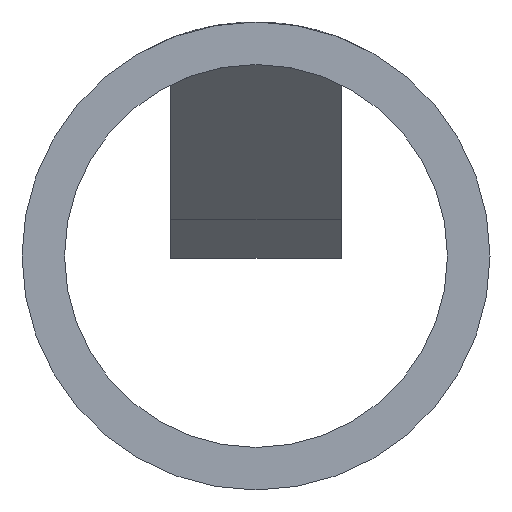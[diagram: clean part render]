
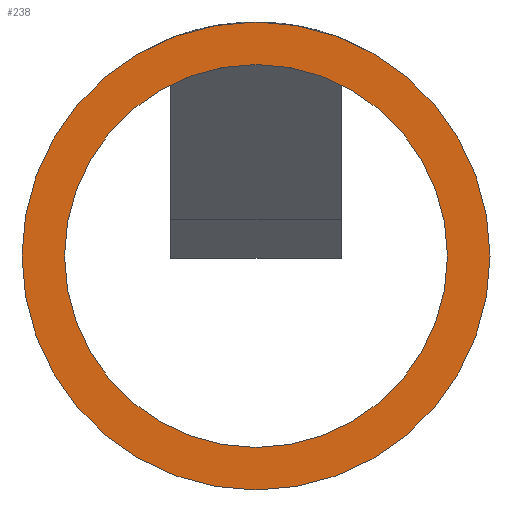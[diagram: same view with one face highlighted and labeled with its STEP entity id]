
A CAD part, front view. The second image highlights one B-rep face of the part: STEP entity #238.
In plain terms, the highlighted planar face has unit normal (0, -1, 0).
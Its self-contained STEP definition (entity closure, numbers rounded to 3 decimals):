
#19 = CIRCLE ( 'NONE', #180, 4.5 ) ;
#31 = FACE_OUTER_BOUND ( 'NONE', #62, .T. ) ;
#37 = FACE_BOUND ( 'NONE', #65, .T. ) ;
#50 = CIRCLE ( 'NONE', #198, 5.5 ) ;
#62 = EDGE_LOOP ( 'NONE', ( #313, #314 ) ) ;
#65 = EDGE_LOOP ( 'NONE', ( #315, #263 ) ) ;
#131 = AXIS2_PLACEMENT_3D ( 'NONE', #466, #463, #455 ) ;
#135 = EDGE_CURVE ( 'NONE', #224, #230, #272, .T. ) ;
#145 = EDGE_CURVE ( 'NONE', #217, #218, #264, .T. ) ;
#159 = EDGE_CURVE ( 'NONE', #218, #217, #19, .T. ) ;
#169 = EDGE_CURVE ( 'NONE', #230, #224, #50, .T. ) ;
#180 = AXIS2_PLACEMENT_3D ( 'NONE', #452, #448, #447 ) ;
#181 = AXIS2_PLACEMENT_3D ( 'NONE', #339, #485, #484 ) ;
#190 = AXIS2_PLACEMENT_3D ( 'NONE', #364, #355, #354 ) ;
#198 = AXIS2_PLACEMENT_3D ( 'NONE', #449, #428, #427 ) ;
#217 = VERTEX_POINT ( 'NONE', #433 ) ;
#218 = VERTEX_POINT ( 'NONE', #410 ) ;
#224 = VERTEX_POINT ( 'NONE', #403 ) ;
#230 = VERTEX_POINT ( 'NONE', #397 ) ;
#238 = ADVANCED_FACE ( 'NONE', ( #31, #37 ), #356, .T. ) ;
#263 = ORIENTED_EDGE ( 'NONE', *, *, #145, .F. ) ;
#264 = CIRCLE ( 'NONE', #181, 4.5 ) ;
#272 = CIRCLE ( 'NONE', #131, 5.5 ) ;
#313 = ORIENTED_EDGE ( 'NONE', *, *, #135, .T. ) ;
#314 = ORIENTED_EDGE ( 'NONE', *, *, #169, .T. ) ;
#315 = ORIENTED_EDGE ( 'NONE', *, *, #159, .F. ) ;
#339 = CARTESIAN_POINT ( 'NONE',  ( 0., 0., 0. ) ) ;
#354 = DIRECTION ( 'NONE',  ( -1., 0., 0. ) ) ;
#355 = DIRECTION ( 'NONE',  ( 0., -1., 0. ) ) ;
#356 = PLANE ( 'NONE',  #190 ) ;
#364 = CARTESIAN_POINT ( 'NONE',  ( 0., 0., 0. ) ) ;
#397 = CARTESIAN_POINT ( 'NONE',  ( -5.5, 0., 0. ) ) ;
#403 = CARTESIAN_POINT ( 'NONE',  ( 5.5, 0., 0. ) ) ;
#410 = CARTESIAN_POINT ( 'NONE',  ( 4.5, 0., 0. ) ) ;
#427 = DIRECTION ( 'NONE',  ( -1., 0., 0. ) ) ;
#428 = DIRECTION ( 'NONE',  ( 0., -1., 0. ) ) ;
#433 = CARTESIAN_POINT ( 'NONE',  ( -4.5, 0., 0. ) ) ;
#447 = DIRECTION ( 'NONE',  ( -1., 0., 0. ) ) ;
#448 = DIRECTION ( 'NONE',  ( 0., -1., 0. ) ) ;
#449 = CARTESIAN_POINT ( 'NONE',  ( 0., 0., 0. ) ) ;
#452 = CARTESIAN_POINT ( 'NONE',  ( 0., 0., 0. ) ) ;
#455 = DIRECTION ( 'NONE',  ( -1., 0., 0. ) ) ;
#463 = DIRECTION ( 'NONE',  ( 0., -1., 0. ) ) ;
#466 = CARTESIAN_POINT ( 'NONE',  ( 0., 0., 0. ) ) ;
#484 = DIRECTION ( 'NONE',  ( -1., 0., 0. ) ) ;
#485 = DIRECTION ( 'NONE',  ( 0., -1., 0. ) ) ;
